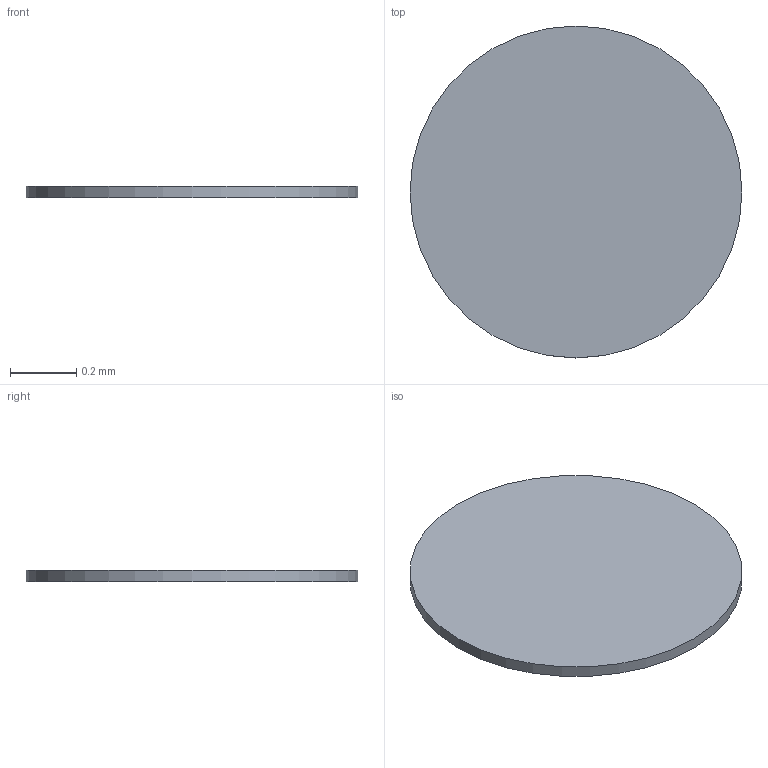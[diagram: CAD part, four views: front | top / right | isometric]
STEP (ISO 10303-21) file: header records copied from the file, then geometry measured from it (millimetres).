
FILE_DESCRIPTION(('Open CASCADE Model'),'2;1');
FILE_NAME('Open CASCADE Shape Model','2026-10-19T06:28:22',('Author'),( 'Open CASCADE'),'Open CASCADE STEP processor 7.8','Open CASCADE 7.8' ,'Unknown');
FILE_SCHEMA(('AUTOMOTIVE_DESIGN { 1 0 10303 214 1 1 1 1 }'));
Length unit declared in the file: millimetre
Products named in the file (2): Bare_copper_testpoint; Copper_only_no_component_body
Assembly tree (1 placements, depth 2):
  Bare_copper_testpoint
    Copper_only_no_component_body
Bounding box: 1 x 1 x 0.04 mm (x, y, z)
Volume: 0 mm3; surface area: 1.7 mm2
Topology: 1 solids, 1 shells, 3 faces, 3 edges, 2 vertices
Faces by surface type: plane 2, cylinder 1
Full cylindrical faces by diameter (mm): 1 x1
Entity records: 135 total; most frequent: DIRECTION 21, CARTESIAN_POINT 16, AXIS2_PLACEMENT_3D 7, ORIENTED_EDGE 6, PCURVE 6, DEFINITIONAL_REPRESENTATION 6, LINE 5, VECTOR 5
